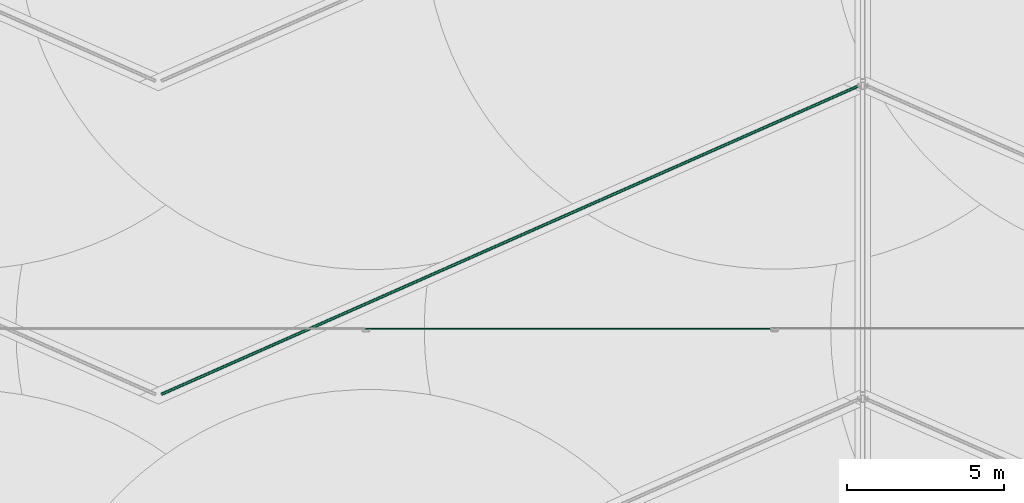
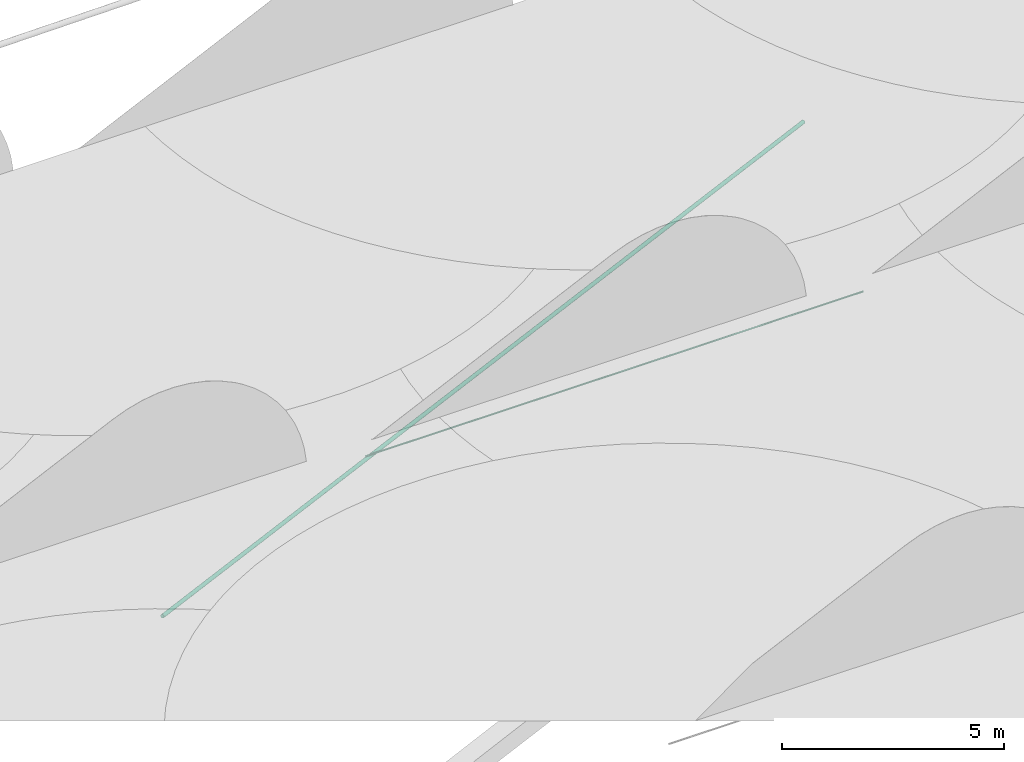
# One storey, part 38 of 166: 2 flow segments.
"""IFC2X3 building model written with IfcOpenShell, lengths in metres."""

from ifc_helpers import new_model, entity, si_unit, converted_unit, direction, frame, frame_2d, origin, place, context, subcontext, project, spatial, circle, extrude, type_object, element, save


model = new_model("IFC2X3")

# Units and contexts
model_context = context("Model", 3, precision=1e-05, world=origin(), true_north=direction((6.123233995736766e-17, 1.0)))
body_context = subcontext(model_context, "Body", "Model", "MODEL_VIEW")
ifc_project = project(units=[si_unit("LENGTHUNIT", "METRE"), converted_unit("PLANEANGLEUNIT", "DEGREE", entity("IfcPlaneAngleMeasure", 0.017453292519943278), si_unit("PLANEANGLEUNIT", "RADIAN"), dimensions=[0, 0, 0, 0, 0, 0, 0]), si_unit("AREAUNIT", "SQUARE_METRE")], contexts=[model_context])

# Site, building, storey
site_placement = place(None, origin())
site = spatial("IfcSite", under=ifc_project, at=site_placement, Name="Default", CompositionType="ELEMENT")
building_placement = place(site_placement, origin())
building = spatial("IfcBuilding", under=site, at=building_placement, Name="CASA DE ACOLHIDA PARA IDOSOS", CompositionType="ELEMENT")
storey_placement = place(building_placement, frame((0.0, 0.0, -1.7499999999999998)))
storey = spatial("IfcBuildingStorey", under=building, at=storey_placement, Name="IMPLANTAÇÃO DRENAGEM", CompositionType="ELEMENT", Elevation=-1.7499999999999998)

# Flow segments
pipe_segment_type_1 = type_object("IfcPipeSegmentType", Name="Tipos de tubos:PLUV_Tubo PEAD Corrugado", PredefinedType="NOTDEFINED")
flow_segment_1_placement = place(storey_placement, origin())
element("IfcFlowSegment", 1, at=flow_segment_1_placement, inside=storey, type_object=pipe_segment_type_1, Name="Tipos de tubos:PLUV_Tubo PEAD Corrugado", ObjectType="Tipos de tubos:PLUV_Tubo PEAD Corrugado", context=body_context, shape_type="SweptSolid", body=[
    extrude(circle(Radius=0.05, at=frame_2d((-3.988659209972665e-15, -1.6901219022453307e-17), x_axis=(1.0, 0.0))), frame((0.5817095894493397, 33.953057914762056, -1.05000995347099), z_axis=(0.9144899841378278, 0.404484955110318, -0.009999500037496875), x_axis=(0.40450517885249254, -0.9145357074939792, 0.0)), (0.0, 0.0, 1.0), 24.480228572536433),
])
pipe_segment_type_2 = type_object("IfcPipeSegmentType", Name="Tipos de tubos:AF_Tubo Marrom Soldável", PredefinedType="NOTDEFINED")
flow_segment_2_placement = place(storey_placement, origin())
element("IfcFlowSegment", 2, at=flow_segment_2_placement, inside=storey, type_object=pipe_segment_type_2, Name="Tipos de tubos:AF_Tubo Marrom Soldável", ObjectType="Tipos de tubos:AF_Tubo Marrom Soldável", context=body_context, shape_type="SweptSolid", body=[
    extrude(circle(Radius=0.016, at=frame_2d((0.0, -2.707167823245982e-16), x_axis=(1.0, 0.0))), frame((7.082445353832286, 36.05494207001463, -0.19999999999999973), z_axis=(1.0, 0.0, 0.0), x_axis=(0.0, -1.0, 0.0)), (0.0, 0.0, 1.0), 12.933905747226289),
])

save(model, "model.ifc")
